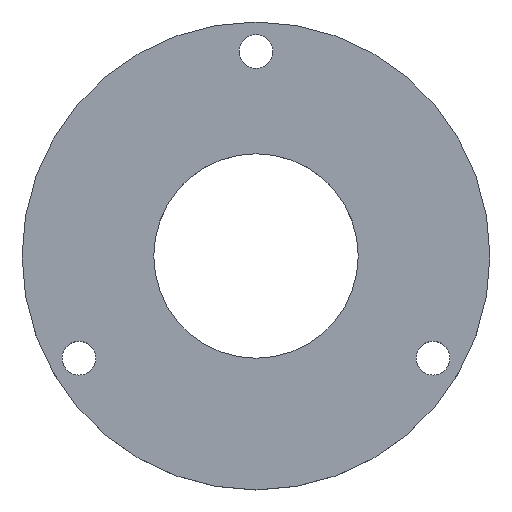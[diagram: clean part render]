
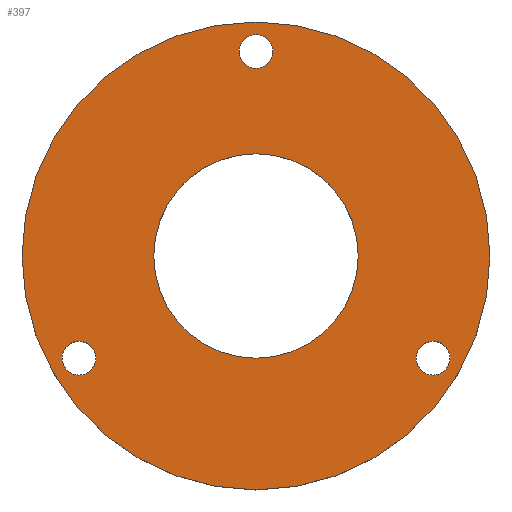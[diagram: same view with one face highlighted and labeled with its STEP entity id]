
A CAD part, top view. The second image highlights one B-rep face of the part: STEP entity #397.
In plain terms, the highlighted planar face has unit normal (0, 0, 1).
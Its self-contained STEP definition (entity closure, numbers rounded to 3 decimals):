
#2 = CIRCLE ( 'NONE', #260, 2.15 ) ;
#14 = EDGE_CURVE ( 'NONE', #163, #122, #374, .T. ) ;
#15 = DIRECTION ( 'NONE',  ( 0., 0., 1. ) ) ;
#16 = VERTEX_POINT ( 'NONE', #394 ) ;
#17 = CARTESIAN_POINT ( 'NONE',  ( 2.15, 26., 0. ) ) ;
#26 = DIRECTION ( 'NONE',  ( 1., 0., 0. ) ) ;
#27 = DIRECTION ( 'NONE',  ( 0., 0., 1. ) ) ;
#35 = DIRECTION ( 'NONE',  ( 0., 0., 1. ) ) ;
#42 = CARTESIAN_POINT ( 'NONE',  ( -2.15, 26., 0. ) ) ;
#48 = EDGE_CURVE ( 'NONE', #16, #50, #383, .T. ) ;
#50 = VERTEX_POINT ( 'NONE', #420 ) ;
#51 = CIRCLE ( 'NONE', #114, 29.75 ) ;
#59 = VERTEX_POINT ( 'NONE', #298 ) ;
#60 = CARTESIAN_POINT ( 'NONE',  ( -22.517, -13., 0. ) ) ;
#71 = EDGE_LOOP ( 'NONE', ( #132, #304 ) ) ;
#75 = CARTESIAN_POINT ( 'NONE',  ( 13., 0., 0. ) ) ;
#76 = FACE_BOUND ( 'NONE', #361, .T. ) ;
#79 = CARTESIAN_POINT ( 'NONE',  ( 0., 0., 0. ) ) ;
#81 = AXIS2_PLACEMENT_3D ( 'NONE', #79, #245, #142 ) ;
#82 = CARTESIAN_POINT ( 'NONE',  ( 0., 0., 0. ) ) ;
#85 = DIRECTION ( 'NONE',  ( 1., 0., 0. ) ) ;
#87 = EDGE_LOOP ( 'NONE', ( #421, #411 ) ) ;
#95 = CIRCLE ( 'NONE', #81, 13. ) ;
#99 = DIRECTION ( 'NONE',  ( 0., 0., 1. ) ) ;
#103 = DIRECTION ( 'NONE',  ( 0., 0., 1. ) ) ;
#107 = CIRCLE ( 'NONE', #380, 2.15 ) ;
#111 = CARTESIAN_POINT ( 'NONE',  ( 0., 0., 0. ) ) ;
#112 = EDGE_CURVE ( 'NONE', #50, #16, #197, .T. ) ;
#113 = CARTESIAN_POINT ( 'NONE',  ( 0., 29.75, 0. ) ) ;
#114 = AXIS2_PLACEMENT_3D ( 'NONE', #82, #15, #85 ) ;
#122 = VERTEX_POINT ( 'NONE', #339 ) ;
#126 = ORIENTED_EDGE ( 'NONE', *, *, #48, .F. ) ;
#127 = CARTESIAN_POINT ( 'NONE',  ( 0., 26., 0. ) ) ;
#129 = ORIENTED_EDGE ( 'NONE', *, *, #254, .F. ) ;
#132 = ORIENTED_EDGE ( 'NONE', *, *, #14, .T. ) ;
#142 = DIRECTION ( 'NONE',  ( 1., 0., 0. ) ) ;
#147 = FACE_OUTER_BOUND ( 'NONE', #71, .T. ) ;
#160 = ORIENTED_EDGE ( 'NONE', *, *, #349, .F. ) ;
#163 = VERTEX_POINT ( 'NONE', #417 ) ;
#171 = CARTESIAN_POINT ( 'NONE',  ( 0., 0., 0. ) ) ;
#176 = EDGE_CURVE ( 'NONE', #340, #206, #107, .T. ) ;
#182 = EDGE_CURVE ( 'NONE', #59, #353, #413, .T. ) ;
#183 = DIRECTION ( 'NONE',  ( 1., 0., 0. ) ) ;
#186 = DIRECTION ( 'NONE',  ( -1., 0., 0. ) ) ;
#191 = CARTESIAN_POINT ( 'NONE',  ( 22.517, -13., 0. ) ) ;
#197 = CIRCLE ( 'NONE', #286, 2.15 ) ;
#201 = DIRECTION ( 'NONE',  ( 0., 0., 1. ) ) ;
#206 = VERTEX_POINT ( 'NONE', #17 ) ;
#207 = CARTESIAN_POINT ( 'NONE',  ( -22.517, -13., 0. ) ) ;
#211 = AXIS2_PLACEMENT_3D ( 'NONE', #191, #414, #230 ) ;
#230 = DIRECTION ( 'NONE',  ( 1., 0., 0. ) ) ;
#237 = DIRECTION ( 'NONE',  ( 1., 0., 0. ) ) ;
#240 = EDGE_CURVE ( 'NONE', #206, #340, #348, .T. ) ;
#245 = DIRECTION ( 'NONE',  ( 0., 0., 1. ) ) ;
#249 = DIRECTION ( 'NONE',  ( 0., 0., -1. ) ) ;
#250 = AXIS2_PLACEMENT_3D ( 'NONE', #127, #357, #385 ) ;
#251 = CARTESIAN_POINT ( 'NONE',  ( -13., 0., 0. ) ) ;
#254 = EDGE_CURVE ( 'NONE', #353, #59, #2, .T. ) ;
#257 = EDGE_LOOP ( 'NONE', ( #350, #126 ) ) ;
#260 = AXIS2_PLACEMENT_3D ( 'NONE', #60, #201, #26 ) ;
#269 = ORIENTED_EDGE ( 'NONE', *, *, #289, .F. ) ;
#270 = CARTESIAN_POINT ( 'NONE',  ( 22.517, -13., 0. ) ) ;
#273 = CARTESIAN_POINT ( 'NONE',  ( 0., 26., 0. ) ) ;
#278 = EDGE_LOOP ( 'NONE', ( #323, #129 ) ) ;
#281 = PLANE ( 'NONE',  #388 ) ;
#286 = AXIS2_PLACEMENT_3D ( 'NONE', #270, #27, #237 ) ;
#289 = EDGE_CURVE ( 'NONE', #292, #312, #95, .T. ) ;
#292 = VERTEX_POINT ( 'NONE', #251 ) ;
#296 = AXIS2_PLACEMENT_3D ( 'NONE', #207, #103, #395 ) ;
#298 = CARTESIAN_POINT ( 'NONE',  ( -20.367, -13., 0. ) ) ;
#304 = ORIENTED_EDGE ( 'NONE', *, *, #407, .T. ) ;
#307 = DIRECTION ( 'NONE',  ( 0., 0., 1. ) ) ;
#312 = VERTEX_POINT ( 'NONE', #75 ) ;
#313 = CARTESIAN_POINT ( 'NONE',  ( -24.667, -13., 0. ) ) ;
#314 = CIRCLE ( 'NONE', #329, 13. ) ;
#323 = ORIENTED_EDGE ( 'NONE', *, *, #182, .F. ) ;
#329 = AXIS2_PLACEMENT_3D ( 'NONE', #111, #35, #183 ) ;
#339 = CARTESIAN_POINT ( 'NONE',  ( -29.75, 0., 0. ) ) ;
#340 = VERTEX_POINT ( 'NONE', #42 ) ;
#348 = CIRCLE ( 'NONE', #250, 2.15 ) ;
#349 = EDGE_CURVE ( 'NONE', #312, #292, #314, .T. ) ;
#350 = ORIENTED_EDGE ( 'NONE', *, *, #112, .F. ) ;
#353 = VERTEX_POINT ( 'NONE', #313 ) ;
#357 = DIRECTION ( 'NONE',  ( 0., 0., 1. ) ) ;
#360 = DIRECTION ( 'NONE',  ( 1., 0., 0. ) ) ;
#361 = EDGE_LOOP ( 'NONE', ( #160, #269 ) ) ;
#367 = FACE_BOUND ( 'NONE', #87, .T. ) ;
#374 = CIRCLE ( 'NONE', #410, 29.75 ) ;
#380 = AXIS2_PLACEMENT_3D ( 'NONE', #273, #99, #360 ) ;
#383 = CIRCLE ( 'NONE', #211, 2.15 ) ;
#385 = DIRECTION ( 'NONE',  ( 1., 0., 0. ) ) ;
#388 = AXIS2_PLACEMENT_3D ( 'NONE', #113, #249, #186 ) ;
#394 = CARTESIAN_POINT ( 'NONE',  ( 20.367, -13., 0. ) ) ;
#395 = DIRECTION ( 'NONE',  ( 1., 0., 0. ) ) ;
#397 = ADVANCED_FACE ( 'NONE', ( #431, #399, #367, #76, #147 ), #281, .F. ) ;
#399 = FACE_BOUND ( 'NONE', #278, .T. ) ;
#407 = EDGE_CURVE ( 'NONE', #122, #163, #51, .T. ) ;
#410 = AXIS2_PLACEMENT_3D ( 'NONE', #171, #307, #428 ) ;
#411 = ORIENTED_EDGE ( 'NONE', *, *, #176, .F. ) ;
#413 = CIRCLE ( 'NONE', #296, 2.15 ) ;
#414 = DIRECTION ( 'NONE',  ( 0., 0., 1. ) ) ;
#417 = CARTESIAN_POINT ( 'NONE',  ( 29.75, 0., 0. ) ) ;
#420 = CARTESIAN_POINT ( 'NONE',  ( 24.667, -13., 0. ) ) ;
#421 = ORIENTED_EDGE ( 'NONE', *, *, #240, .F. ) ;
#428 = DIRECTION ( 'NONE',  ( 1., 0., 0. ) ) ;
#431 = FACE_BOUND ( 'NONE', #257, .T. ) ;
